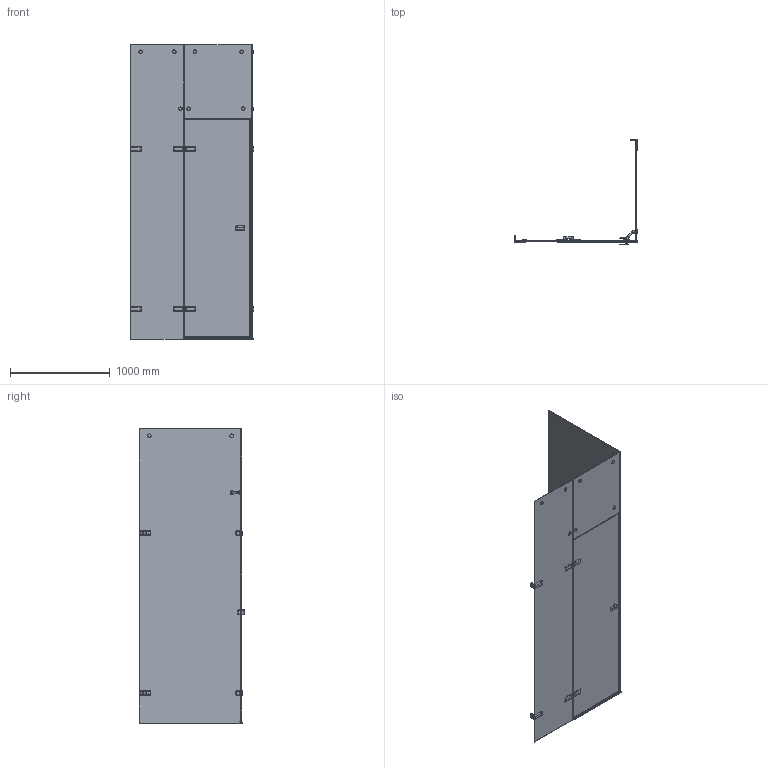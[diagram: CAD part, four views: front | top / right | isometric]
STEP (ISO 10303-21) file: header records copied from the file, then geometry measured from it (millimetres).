
FILE_DESCRIPTION(/* description */ (''),/* implementation_level */ '2;1');
FILE_NAME(/* name */ 'E:\Работа\Сергей\Душевые кабинки\! Работа\!!!\TREND SQUARE GK-884ZF\TREND SQUARE GK-884ZF левая модель\TREND SQUARE GK-884ZF ЛЕВАЯ-3D.stp',/* time_stamp */ '2017-12-24T13:55:11+03:00',/* author */ ('PC'),/* organization */ (''),/* preprocessor_version */ 'ST-DEVELOPER v15.2',/* originating_system */ 'Autodesk Inventor 2014',/* authorisation */ '');
FILE_SCHEMA (('AUTOMOTIVE_DESIGN { 1 0 10303 214 3 1 1 }'));
Products named in the file (1): TREND SQUARE GK-884ZF ЛЕВАЯ-3D
Bounding box: 1231.98 x 1056.5 x 2946 mm (x, y, z)
Volume: 50982528.8 mm3; surface area: 13645244.5 mm2
Topology: 13 solids, 13 shells, 1623 faces, 4203 edges, 2678 vertices
Faces by surface type: plane 937, cylinder 411, bspline 162, torus 59, cone 36, sphere 18
Full cylindrical faces by diameter (mm): 6 x2, 9 x8, 13 x2, 20 x2, 21 x4, 26 x1, 35 x20, 36 x20, 40 x4
Entity records: 67565 total; most frequent: CARTESIAN_POINT 27639, ORIENTED_EDGE 7930, DIRECTION 7784, EDGE_CURVE 3965, AXIS2_PLACEMENT_3D 2678, VERTEX_POINT 2534, LINE 2428, VECTOR 2428
